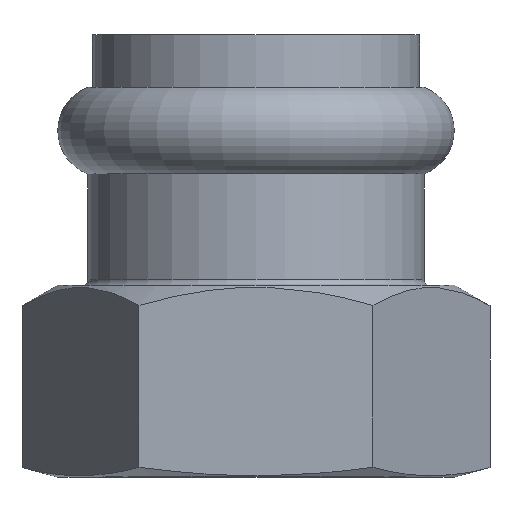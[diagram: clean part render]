
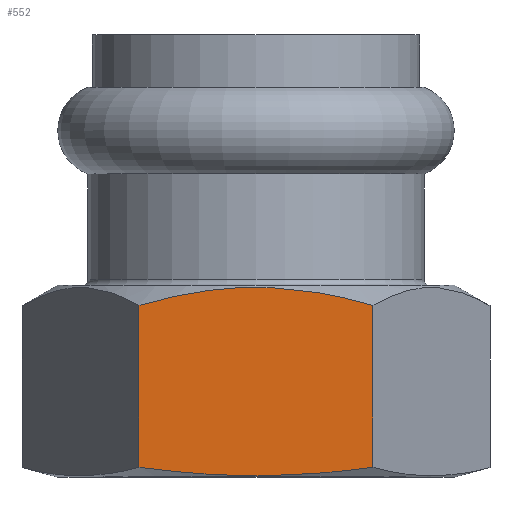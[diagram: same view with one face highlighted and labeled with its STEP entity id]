
A CAD part, top view. The second image highlights one B-rep face of the part: STEP entity #552.
In plain terms, the highlighted planar face has unit normal (0, 0, 1).
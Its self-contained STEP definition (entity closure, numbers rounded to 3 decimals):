
#23=(
BOUNDED_CURVE()
B_SPLINE_CURVE(2,(#993,#994,#995),.UNSPECIFIED.,.F.,.F.)
B_SPLINE_CURVE_WITH_KNOTS((3,3),(1.103,4.745),
 .UNSPECIFIED.)
CURVE()
GEOMETRIC_REPRESENTATION_ITEM()
RATIONAL_B_SPLINE_CURVE((1.139,1.315,1.139))
REPRESENTATION_ITEM('')
);
#24=(
BOUNDED_CURVE()
B_SPLINE_CURVE(2,(#997,#998,#999),.UNSPECIFIED.,.F.,.F.)
B_SPLINE_CURVE_WITH_KNOTS((3,3),(1.129,4.857),
 .UNSPECIFIED.)
CURVE()
GEOMETRIC_REPRESENTATION_ITEM()
RATIONAL_B_SPLINE_CURVE((1.139,1.315,1.139))
REPRESENTATION_ITEM('')
);
#48=LINE('',#990,#69);
#49=LINE('',#1000,#70);
#69=VECTOR('',#801,10.);
#70=VECTOR('',#804,10.);
#117=FACE_OUTER_BOUND('',#153,.T.);
#153=EDGE_LOOP('',(#458,#459,#460,#461));
#258=VERTEX_POINT('',#982);
#259=VERTEX_POINT('',#986);
#260=VERTEX_POINT('',#992);
#261=VERTEX_POINT('',#996);
#332=EDGE_CURVE('',#259,#258,#48,.T.);
#333=EDGE_CURVE('',#258,#260,#23,.T.);
#334=EDGE_CURVE('',#261,#259,#24,.T.);
#335=EDGE_CURVE('',#261,#260,#49,.T.);
#458=ORIENTED_EDGE('',*,*,#333,.F.);
#459=ORIENTED_EDGE('',*,*,#332,.F.);
#460=ORIENTED_EDGE('',*,*,#334,.F.);
#461=ORIENTED_EDGE('',*,*,#335,.T.);
#527=PLANE('',#645);
#552=ADVANCED_FACE('',(#117),#527,.T.);
#645=AXIS2_PLACEMENT_3D('',#991,#802,#803);
#801=DIRECTION('',(0.,-1.,0.));
#802=DIRECTION('center_axis',(0.,0.,
1.));
#803=DIRECTION('ref_axis',(-1.,0.,0.));
#804=DIRECTION('',(0.,-1.,0.));
#982=CARTESIAN_POINT('',(15.877,-58.726,27.5));
#986=CARTESIAN_POINT('',(15.877,-36.745,27.5));
#990=CARTESIAN_POINT('',(15.877,-13.,27.5));
#991=CARTESIAN_POINT('Origin',(15.877,-13.,27.5));
#992=CARTESIAN_POINT('',(-15.877,-58.726,27.5));
#993=CARTESIAN_POINT('Ctrl Pts',(15.877,-58.726,27.5));
#994=CARTESIAN_POINT('Ctrl Pts',(0.,-60.853,
27.5));
#995=CARTESIAN_POINT('Ctrl Pts',(-15.877,-58.726,27.5));
#996=CARTESIAN_POINT('',(-15.877,-36.745,27.5));
#997=CARTESIAN_POINT('Ctrl Pts',(-15.877,-36.745,27.5));
#998=CARTESIAN_POINT('Ctrl Pts',(0.,-32.162,
27.5));
#999=CARTESIAN_POINT('Ctrl Pts',(15.877,-36.745,27.5));
#1000=CARTESIAN_POINT('',(-15.877,-13.,27.5));
